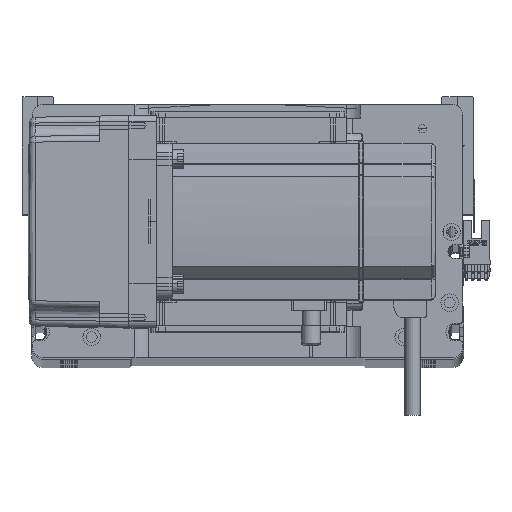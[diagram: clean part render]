
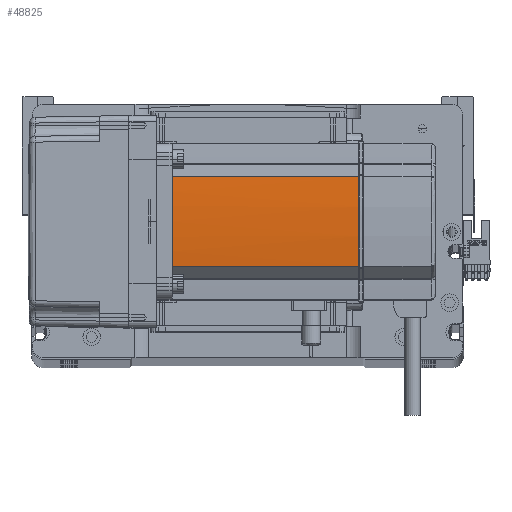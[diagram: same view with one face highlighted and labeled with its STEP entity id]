
A CAD part, top view. The second image highlights one B-rep face of the part: STEP entity #48825.
In plain terms, the highlighted cylindrical face has radius 270 mm (diameter 540 mm), a partial arc.
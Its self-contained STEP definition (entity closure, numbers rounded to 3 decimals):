
#1985 = B_SPLINE_CURVE_WITH_KNOTS ( 'NONE', 3,
 ( #55440, #46985, #33182, #25268 ),
 .UNSPECIFIED., .F., .F.,
 ( 4, 4 ),
 ( 0., 1. ),
 .UNSPECIFIED. ) ;
#2618 = EDGE_CURVE ( 'NONE', #21840, #16776, #56529, .T. ) ;
#4527 = AXIS2_PLACEMENT_3D ( 'NONE', #21245, #16642, #21634 ) ;
#5664 = DIRECTION ( 'NONE',  ( -1., 0., 0. ) ) ;
#7118 = DIRECTION ( 'NONE',  ( 0., 0., -1. ) ) ;
#8028 = CARTESIAN_POINT ( 'NONE',  ( 39.042, -22.724, 39. ) ) ;
#12147 = AXIS2_PLACEMENT_3D ( 'NONE', #28111, #49820, #5664 ) ;
#13912 = CARTESIAN_POINT ( 'NONE',  ( -230., 0., 134. ) ) ;
#14470 = CIRCLE ( 'NONE', #12147, 270. ) ;
#14680 = VECTOR ( 'NONE', #55500, 1000. ) ;
#14854 = VERTEX_POINT ( 'NONE', #20410 ) ;
#15524 = CARTESIAN_POINT ( 'NONE',  ( 39.042, 22.724, 39. ) ) ;
#16642 = DIRECTION ( 'NONE',  ( 0., 0., -1. ) ) ;
#16776 = VERTEX_POINT ( 'NONE', #8028 ) ;
#17033 = ORIENTED_EDGE ( 'NONE', *, *, #30617, .F. ) ;
#17651 = VERTEX_POINT ( 'NONE', #15524 ) ;
#18797 = EDGE_LOOP ( 'NONE', ( #47046, #21332, #36545, #33592, #17033, #49742 ) ) ;
#19595 = VERTEX_POINT ( 'NONE', #23906 ) ;
#20107 = VECTOR ( 'NONE', #7118, 1000. ) ;
#20410 = CARTESIAN_POINT ( 'NONE',  ( 40., -0.127, 134. ) ) ;
#21133 = DIRECTION ( 'NONE',  ( 0., 0., -1. ) ) ;
#21245 = CARTESIAN_POINT ( 'NONE',  ( -230., 0., 134. ) ) ;
#21332 = ORIENTED_EDGE ( 'NONE', *, *, #36604, .F. ) ;
#21634 = DIRECTION ( 'NONE',  ( -1., 0., 0. ) ) ;
#21840 = VERTEX_POINT ( 'NONE', #50549 ) ;
#23647 = EDGE_CURVE ( 'NONE', #17651, #19595, #24979, .T. ) ;
#23906 = CARTESIAN_POINT ( 'NONE',  ( 39.042, 22.724, 134. ) ) ;
#24764 = CARTESIAN_POINT ( 'NONE',  ( 39.042, 22.724, 58. ) ) ;
#24979 = LINE ( 'NONE', #24764, #14680 ) ;
#25268 = CARTESIAN_POINT ( 'NONE',  ( 40., 0.127, 134. ) ) ;
#25948 = DIRECTION ( 'NONE',  ( -1., 0., 0. ) ) ;
#27105 = AXIS2_PLACEMENT_3D ( 'NONE', #47094, #21133, #25948 ) ;
#27970 = CARTESIAN_POINT ( 'NONE',  ( 40., 0.127, 134. ) ) ;
#28111 = CARTESIAN_POINT ( 'NONE',  ( -230., 0., 39. ) ) ;
#30617 = EDGE_CURVE ( 'NONE', #14854, #52898, #1985, .T. ) ;
#31722 = CYLINDRICAL_SURFACE ( 'NONE', #27105, 270. ) ;
#33182 = CARTESIAN_POINT ( 'NONE',  ( 40., 0.042, 134. ) ) ;
#33480 = CARTESIAN_POINT ( 'NONE',  ( 39.042, -22.724, 58. ) ) ;
#33592 = ORIENTED_EDGE ( 'NONE', *, *, #45791, .T. ) ;
#36545 = ORIENTED_EDGE ( 'NONE', *, *, #23647, .T. ) ;
#36604 = EDGE_CURVE ( 'NONE', #17651, #16776, #14470, .T. ) ;
#37841 = CIRCLE ( 'NONE', #4527, 270. ) ;
#45010 = DIRECTION ( 'NONE',  ( -1., 0., 0. ) ) ;
#45791 = EDGE_CURVE ( 'NONE', #19595, #52898, #49772, .T. ) ;
#46985 = CARTESIAN_POINT ( 'NONE',  ( 40., -0.042, 134. ) ) ;
#47046 = ORIENTED_EDGE ( 'NONE', *, *, #2618, .T. ) ;
#47094 = CARTESIAN_POINT ( 'NONE',  ( -230., 0., 58. ) ) ;
#48825 = ADVANCED_FACE ( 'NONE', ( #53754 ), #31722, .T. ) ;
#49742 = ORIENTED_EDGE ( 'NONE', *, *, #52627, .T. ) ;
#49772 = CIRCLE ( 'NONE', #52604, 270. ) ;
#49820 = DIRECTION ( 'NONE',  ( 0., 0., -1. ) ) ;
#50549 = CARTESIAN_POINT ( 'NONE',  ( 39.042, -22.724, 134. ) ) ;
#52604 = AXIS2_PLACEMENT_3D ( 'NONE', #13912, #53485, #45010 ) ;
#52627 = EDGE_CURVE ( 'NONE', #14854, #21840, #37841, .T. ) ;
#52898 = VERTEX_POINT ( 'NONE', #27970 ) ;
#53485 = DIRECTION ( 'NONE',  ( 0., 0., -1. ) ) ;
#53754 = FACE_OUTER_BOUND ( 'NONE', #18797, .T. ) ;
#55440 = CARTESIAN_POINT ( 'NONE',  ( 40., -0.127, 134. ) ) ;
#55500 = DIRECTION ( 'NONE',  ( 0., 0., 1. ) ) ;
#56529 = LINE ( 'NONE', #33480, #20107 ) ;
